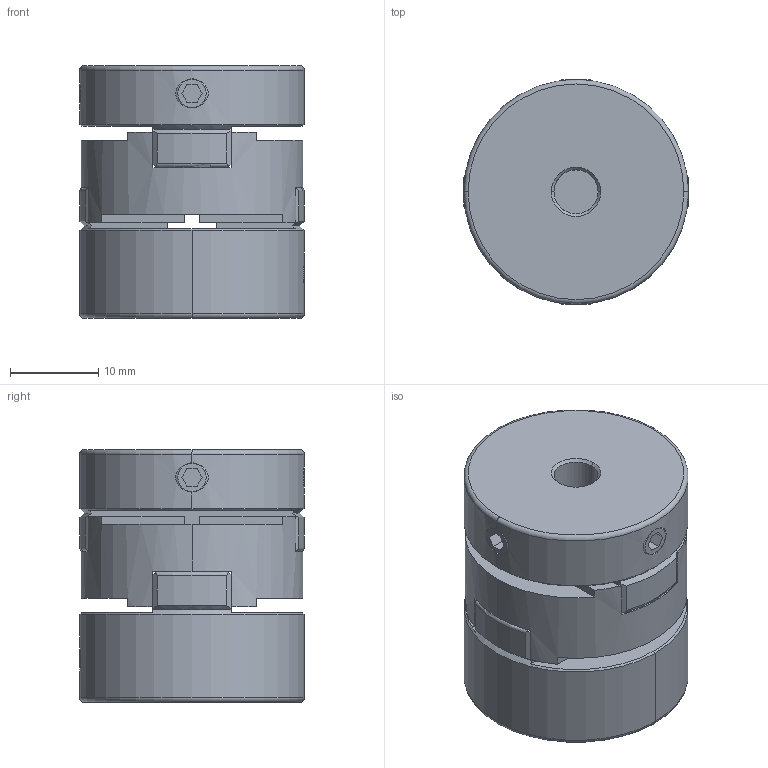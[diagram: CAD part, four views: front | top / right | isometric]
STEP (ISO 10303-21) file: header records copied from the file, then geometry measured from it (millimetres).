
FILE_DESCRIPTION (( 'STEP AP203' ), '1' );
FILE_NAME ('SOH-25S-5X10_203.STEP', '2013-01-20T08:27:33', ( '' ), ( '' ), 'SwSTEP 2.0', 'SolidWorks 2012', '' );
FILE_SCHEMA (( 'CONFIG_CONTROL_DESIGN' ));
Length unit declared in the file: millimetre
Products named in the file (1): SOH-25S-5X10_203
Bounding box: 25.5 x 25.5 x 28.7 mm (x, y, z)
Volume: 11825.3 mm3; surface area: 5781.9 mm2
Topology: 1 solids, 1 shells, 177 faces, 510 edges, 329 vertices
Faces by surface type: plane 90, cylinder 49, cone 20, torus 10, sphere 8
Entity records: 6392 total; most frequent: CARTESIAN_POINT 1697, ORIENTED_EDGE 1020, DIRECTION 917, EDGE_CURVE 510, VERTEX_POINT 329, AXIS2_PLACEMENT_3D 325, LINE 267, VECTOR 267
